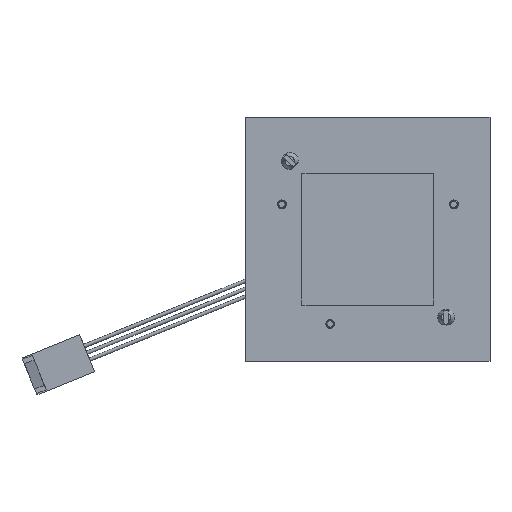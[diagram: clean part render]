
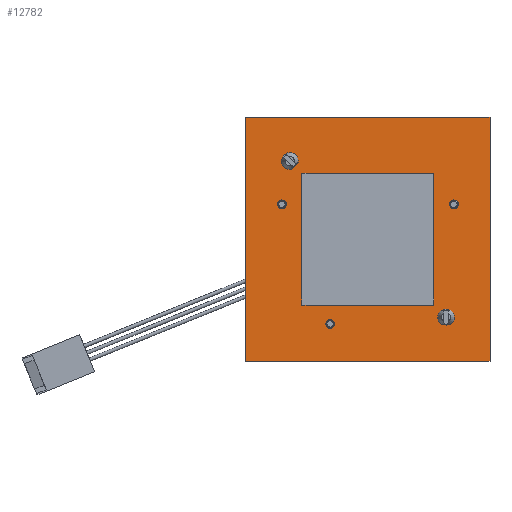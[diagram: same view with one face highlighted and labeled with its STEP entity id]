
A CAD part, front view. The second image highlights one B-rep face of the part: STEP entity #12782.
In plain terms, the highlighted planar face has unit normal (0, -1, 0).
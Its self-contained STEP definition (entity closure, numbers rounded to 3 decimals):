
#381 = CARTESIAN_POINT ( 'NONE',  ( -7.728, 0.5, -17.357 ) ) ;
#544 = EDGE_LOOP ( 'NONE', ( #31811, #18069 ) ) ;
#1040 = CARTESIAN_POINT ( 'NONE',  ( -17.616, 0.5, 6.218 ) ) ;
#2036 = VERTEX_POINT ( 'NONE', #28045 ) ;
#2855 = EDGE_LOOP ( 'NONE', ( #58483, #26303, #2988, #58947 ) ) ;
#2988 = ORIENTED_EDGE ( 'NONE', *, *, #26113, .T. ) ;
#3057 = DIRECTION ( 'NONE',  ( 0., -1., 0. ) ) ;
#3414 = ORIENTED_EDGE ( 'NONE', *, *, #11703, .T. ) ;
#3480 = CARTESIAN_POINT ( 'NONE',  ( 25., 0.5, 25. ) ) ;
#3884 = DIRECTION ( 'NONE',  ( 0., 1., 0. ) ) ;
#4183 = EDGE_CURVE ( 'NONE', #40002, #36030, #43367, .T. ) ;
#5455 = DIRECTION ( 'NONE',  ( 0., 0., -1. ) ) ;
#6297 = VERTEX_POINT ( 'NONE', #22627 ) ;
#7107 = AXIS2_PLACEMENT_3D ( 'NONE', #47353, #42808, #37898 ) ;
#7890 = LINE ( 'NONE', #29503, #13807 ) ;
#8203 = ORIENTED_EDGE ( 'NONE', *, *, #10384, .F. ) ;
#8279 = CARTESIAN_POINT ( 'NONE',  ( 16.001, 0.5, -14.401 ) ) ;
#8388 = DIRECTION ( 'NONE',  ( -1., 0., 0. ) ) ;
#8578 = CIRCLE ( 'NONE', #50927, 1.6 ) ;
#8659 = DIRECTION ( 'NONE',  ( 0., 0., -1. ) ) ;
#9223 = CARTESIAN_POINT ( 'NONE',  ( 16.001, 0.5, -17.601 ) ) ;
#9780 = ORIENTED_EDGE ( 'NONE', *, *, #68733, .T. ) ;
#9980 = AXIS2_PLACEMENT_3D ( 'NONE', #42423, #63750, #5455 ) ;
#10118 = VERTEX_POINT ( 'NONE', #53977 ) ;
#10384 = EDGE_CURVE ( 'NONE', #10118, #2036, #8578, .T. ) ;
#10561 = DIRECTION ( 'NONE',  ( 0., 0., -1. ) ) ;
#10856 = CARTESIAN_POINT ( 'NONE',  ( -7.728, 0.5, -16.457 ) ) ;
#10879 = DIRECTION ( 'NONE',  ( 0., 1., 0. ) ) ;
#10883 = EDGE_CURVE ( 'NONE', #58133, #25147, #39677, .T. ) ;
#11703 = EDGE_CURVE ( 'NONE', #34375, #20305, #22006, .T. ) ;
#12372 = VERTEX_POINT ( 'NONE', #18620 ) ;
#12782 = ADVANCED_FACE ( 'NONE', ( #67281, #67621, #29853, #66576, #18386, #39587 ), #12797, .T. ) ;
#12797 = PLANE ( 'NONE',  #59876 ) ;
#12840 = VERTEX_POINT ( 'NONE', #41685 ) ;
#13807 = VECTOR ( 'NONE', #19388, 1000. ) ;
#14536 = LINE ( 'NONE', #15219, #65191 ) ;
#14903 = EDGE_LOOP ( 'NONE', ( #65273, #40565 ) ) ;
#15219 = CARTESIAN_POINT ( 'NONE',  ( 25., 0.5, -25. ) ) ;
#15667 = VERTEX_POINT ( 'NONE', #21343 ) ;
#16450 = VECTOR ( 'NONE', #66605, 1000. ) ;
#17743 = CIRCLE ( 'NONE', #9980, 0.9 ) ;
#17950 = DIRECTION ( 'NONE',  ( 0., 1., 0. ) ) ;
#18069 = ORIENTED_EDGE ( 'NONE', *, *, #10883, .T. ) ;
#18386 = FACE_BOUND ( 'NONE', #43494, .T. ) ;
#18620 = CARTESIAN_POINT ( 'NONE',  ( 17.616, 0.5, 6.218 ) ) ;
#19066 = DIRECTION ( 'NONE',  ( 0., -1., 0. ) ) ;
#19388 = DIRECTION ( 'NONE',  ( 0., 0., 1. ) ) ;
#19585 = CARTESIAN_POINT ( 'NONE',  ( 17.616, 0.5, 7.118 ) ) ;
#20305 = VERTEX_POINT ( 'NONE', #10856 ) ;
#21343 = CARTESIAN_POINT ( 'NONE',  ( 17.616, 0.5, 8.018 ) ) ;
#22006 = CIRCLE ( 'NONE', #68844, 0.9 ) ;
#22020 = DIRECTION ( 'NONE',  ( 0., 1., 0. ) ) ;
#22421 = EDGE_CURVE ( 'NONE', #36030, #40002, #56637, .T. ) ;
#22627 = CARTESIAN_POINT ( 'NONE',  ( 25., 0.5, 25. ) ) ;
#23455 = EDGE_CURVE ( 'NONE', #25147, #58133, #34963, .T. ) ;
#24721 = CARTESIAN_POINT ( 'NONE',  ( -7.728, 0.5, -18.257 ) ) ;
#25018 = LINE ( 'NONE', #67653, #16450 ) ;
#25147 = VERTEX_POINT ( 'NONE', #1040 ) ;
#25279 = EDGE_CURVE ( 'NONE', #6297, #41398, #34505, .T. ) ;
#26113 = EDGE_CURVE ( 'NONE', #41398, #12840, #25018, .T. ) ;
#26303 = ORIENTED_EDGE ( 'NONE', *, *, #25279, .T. ) ;
#26710 = DIRECTION ( 'NONE',  ( 0., -1., 0. ) ) ;
#27442 = AXIS2_PLACEMENT_3D ( 'NONE', #44650, #22020, #49537 ) ;
#27710 = CARTESIAN_POINT ( 'NONE',  ( -16.002, 0.5, 16.002 ) ) ;
#28045 = CARTESIAN_POINT ( 'NONE',  ( -16.002, 0.5, 14.402 ) ) ;
#29503 = CARTESIAN_POINT ( 'NONE',  ( 25., 0.5, -25. ) ) ;
#29853 = FACE_BOUND ( 'NONE', #544, .T. ) ;
#31811 = ORIENTED_EDGE ( 'NONE', *, *, #23455, .T. ) ;
#32145 = DIRECTION ( 'NONE',  ( 0., 0., -1. ) ) ;
#32942 = DIRECTION ( 'NONE',  ( 0., 0., -1. ) ) ;
#34375 = VERTEX_POINT ( 'NONE', #24721 ) ;
#34505 = LINE ( 'NONE', #3480, #66560 ) ;
#34868 = CIRCLE ( 'NONE', #43764, 0.9 ) ;
#34963 = CIRCLE ( 'NONE', #7107, 0.9 ) ;
#36030 = VERTEX_POINT ( 'NONE', #8279 ) ;
#36448 = DIRECTION ( 'NONE',  ( 1., 0., 0. ) ) ;
#37898 = DIRECTION ( 'NONE',  ( 0., 0., -1. ) ) ;
#38701 = CARTESIAN_POINT ( 'NONE',  ( 16.001, 0.5, -16.001 ) ) ;
#39170 = ORIENTED_EDGE ( 'NONE', *, *, #46284, .F. ) ;
#39587 = FACE_OUTER_BOUND ( 'NONE', #2855, .T. ) ;
#39677 = CIRCLE ( 'NONE', #27442, 0.9 ) ;
#39935 = EDGE_CURVE ( 'NONE', #20305, #34375, #47193, .T. ) ;
#40002 = VERTEX_POINT ( 'NONE', #9223 ) ;
#40565 = ORIENTED_EDGE ( 'NONE', *, *, #4183, .F. ) ;
#40632 = DIRECTION ( 'NONE',  ( 0., 0., -1. ) ) ;
#41398 = VERTEX_POINT ( 'NONE', #43123 ) ;
#41685 = CARTESIAN_POINT ( 'NONE',  ( -25., 0.5, -25. ) ) ;
#42423 = CARTESIAN_POINT ( 'NONE',  ( 17.616, 0.5, 7.118 ) ) ;
#42808 = DIRECTION ( 'NONE',  ( 0., 1., 0. ) ) ;
#43123 = CARTESIAN_POINT ( 'NONE',  ( -25., 0.5, 25. ) ) ;
#43367 = CIRCLE ( 'NONE', #45609, 1.6 ) ;
#43386 = DIRECTION ( 'NONE',  ( 0., 0., -1. ) ) ;
#43494 = EDGE_LOOP ( 'NONE', ( #3414, #51427 ) ) ;
#43764 = AXIS2_PLACEMENT_3D ( 'NONE', #19585, #3884, #63207 ) ;
#43810 = ORIENTED_EDGE ( 'NONE', *, *, #54208, .T. ) ;
#44650 = CARTESIAN_POINT ( 'NONE',  ( -17.616, 0.5, 7.118 ) ) ;
#45609 = AXIS2_PLACEMENT_3D ( 'NONE', #61434, #55446, #54757 ) ;
#45932 = AXIS2_PLACEMENT_3D ( 'NONE', #50846, #3057, #8659 ) ;
#46284 = EDGE_CURVE ( 'NONE', #2036, #10118, #66049, .T. ) ;
#47193 = CIRCLE ( 'NONE', #54972, 0.9 ) ;
#47353 = CARTESIAN_POINT ( 'NONE',  ( -17.616, 0.5, 7.118 ) ) ;
#47885 = EDGE_CURVE ( 'NONE', #12840, #54555, #14536, .T. ) ;
#48286 = CARTESIAN_POINT ( 'NONE',  ( -7.728, 0.5, -17.357 ) ) ;
#48289 = EDGE_LOOP ( 'NONE', ( #9780, #43810 ) ) ;
#48338 = EDGE_CURVE ( 'NONE', #54555, #6297, #7890, .T. ) ;
#49537 = DIRECTION ( 'NONE',  ( 0., 0., -1. ) ) ;
#50846 = CARTESIAN_POINT ( 'NONE',  ( -16.002, 0.5, 16.002 ) ) ;
#50927 = AXIS2_PLACEMENT_3D ( 'NONE', #27710, #26710, #32942 ) ;
#51427 = ORIENTED_EDGE ( 'NONE', *, *, #39935, .T. ) ;
#53250 = AXIS2_PLACEMENT_3D ( 'NONE', #38701, #65346, #32145 ) ;
#53977 = CARTESIAN_POINT ( 'NONE',  ( -16.002, 0.5, 17.602 ) ) ;
#54208 = EDGE_CURVE ( 'NONE', #15667, #12372, #34868, .T. ) ;
#54555 = VERTEX_POINT ( 'NONE', #60977 ) ;
#54757 = DIRECTION ( 'NONE',  ( 0., 0., -1. ) ) ;
#54972 = AXIS2_PLACEMENT_3D ( 'NONE', #48286, #17950, #43386 ) ;
#55446 = DIRECTION ( 'NONE',  ( 0., -1., 0. ) ) ;
#56637 = CIRCLE ( 'NONE', #53250, 1.6 ) ;
#58133 = VERTEX_POINT ( 'NONE', #65862 ) ;
#58483 = ORIENTED_EDGE ( 'NONE', *, *, #48338, .T. ) ;
#58947 = ORIENTED_EDGE ( 'NONE', *, *, #47885, .T. ) ;
#59876 = AXIS2_PLACEMENT_3D ( 'NONE', #60954, #19066, #40632 ) ;
#60954 = CARTESIAN_POINT ( 'NONE',  ( 0., 0.5, 0. ) ) ;
#60977 = CARTESIAN_POINT ( 'NONE',  ( 25., 0.5, -25. ) ) ;
#61434 = CARTESIAN_POINT ( 'NONE',  ( 16.001, 0.5, -16.001 ) ) ;
#62626 = EDGE_LOOP ( 'NONE', ( #8203, #39170 ) ) ;
#63207 = DIRECTION ( 'NONE',  ( 0., 0., -1. ) ) ;
#63750 = DIRECTION ( 'NONE',  ( 0., 1., 0. ) ) ;
#65191 = VECTOR ( 'NONE', #36448, 1000. ) ;
#65273 = ORIENTED_EDGE ( 'NONE', *, *, #22421, .F. ) ;
#65346 = DIRECTION ( 'NONE',  ( 0., -1., 0. ) ) ;
#65862 = CARTESIAN_POINT ( 'NONE',  ( -17.616, 0.5, 8.018 ) ) ;
#66049 = CIRCLE ( 'NONE', #45932, 1.6 ) ;
#66560 = VECTOR ( 'NONE', #8388, 1000. ) ;
#66576 = FACE_BOUND ( 'NONE', #48289, .T. ) ;
#66605 = DIRECTION ( 'NONE',  ( 0., 0., -1. ) ) ;
#67281 = FACE_BOUND ( 'NONE', #14903, .T. ) ;
#67621 = FACE_BOUND ( 'NONE', #62626, .T. ) ;
#67653 = CARTESIAN_POINT ( 'NONE',  ( -25., 0.5, -25. ) ) ;
#68733 = EDGE_CURVE ( 'NONE', #12372, #15667, #17743, .T. ) ;
#68844 = AXIS2_PLACEMENT_3D ( 'NONE', #381, #10879, #10561 ) ;
